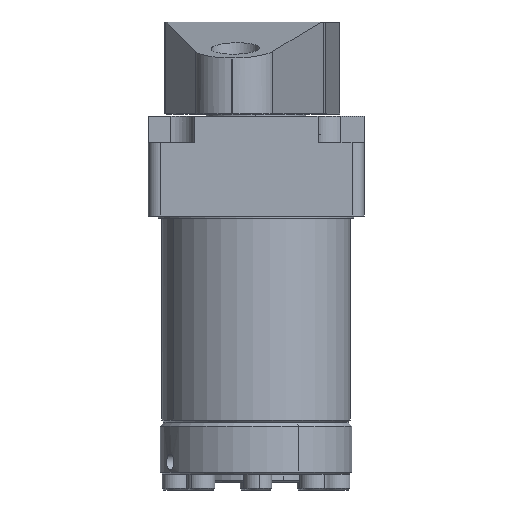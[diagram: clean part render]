
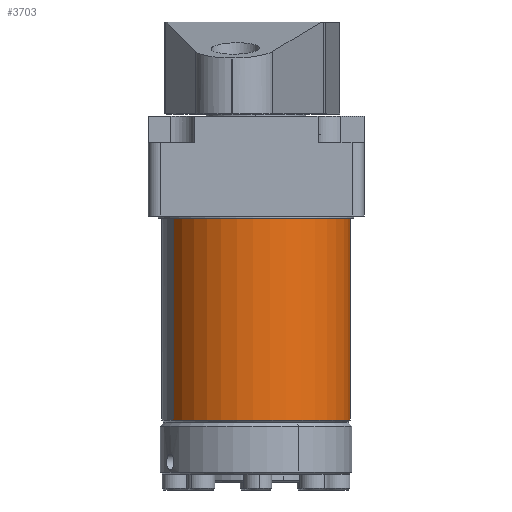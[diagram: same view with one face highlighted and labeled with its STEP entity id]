
A CAD part, front view. The second image highlights one B-rep face of the part: STEP entity #3703.
In plain terms, the highlighted cylindrical face has radius 23.548 mm (diameter 47.096 mm), a partial arc.
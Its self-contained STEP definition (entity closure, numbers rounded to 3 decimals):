
#287 = DIRECTION ( 'NONE',  ( 0., 0., -1. ) ) ;
#830 = AXIS2_PLACEMENT_3D ( 'NONE', #14681, #17986, #14585 ) ;
#1475 = AXIS2_PLACEMENT_3D ( 'NONE', #16726, #287, #5406 ) ;
#1574 = ORIENTED_EDGE ( 'NONE', *, *, #19458, .F. ) ;
#1648 = VERTEX_POINT ( 'NONE', #6598 ) ;
#1679 = CARTESIAN_POINT ( 'NONE',  ( 23.548, 0., 51. ) ) ;
#2172 = LINE ( 'NONE', #16671, #13375 ) ;
#2281 = DIRECTION ( 'NONE',  ( 0., 0., -1. ) ) ;
#3703 = ADVANCED_FACE ( 'NONE', ( #9993 ), #13086, .T. ) ;
#4470 = VERTEX_POINT ( 'NONE', #15883 ) ;
#5406 = DIRECTION ( 'NONE',  ( -1., 0., 0. ) ) ;
#6598 = CARTESIAN_POINT ( 'NONE',  ( 23.548, 0., 0.5 ) ) ;
#6841 = CARTESIAN_POINT ( 'NONE',  ( 0., 0., 0.5 ) ) ;
#7333 = AXIS2_PLACEMENT_3D ( 'NONE', #6841, #16646, #8855 ) ;
#7941 = CIRCLE ( 'NONE', #1475, 23.548 ) ;
#8014 = ORIENTED_EDGE ( 'NONE', *, *, #14549, .T. ) ;
#8855 = DIRECTION ( 'NONE',  ( 1., 0., 0. ) ) ;
#9719 = VERTEX_POINT ( 'NONE', #18005 ) ;
#9993 = FACE_OUTER_BOUND ( 'NONE', #13383, .T. ) ;
#11778 = ORIENTED_EDGE ( 'NONE', *, *, #11827, .T. ) ;
#11827 = EDGE_CURVE ( 'NONE', #9719, #1648, #19955, .T. ) ;
#13086 = CYLINDRICAL_SURFACE ( 'NONE', #830, 23.548 ) ;
#13375 = VECTOR ( 'NONE', #2281, 1000. ) ;
#13383 = EDGE_LOOP ( 'NONE', ( #1574, #17586, #8014, #11778 ) ) ;
#13921 = VECTOR ( 'NONE', #19077, 1000. ) ;
#14549 = EDGE_CURVE ( 'NONE', #17109, #9719, #2172, .T. ) ;
#14585 = DIRECTION ( 'NONE',  ( -1., 0., 0. ) ) ;
#14681 = CARTESIAN_POINT ( 'NONE',  ( 0., 0., 51. ) ) ;
#15339 = EDGE_CURVE ( 'NONE', #4470, #17109, #7941, .T. ) ;
#15883 = CARTESIAN_POINT ( 'NONE',  ( 23.548, 0., 51. ) ) ;
#16299 = LINE ( 'NONE', #1679, #13921 ) ;
#16646 = DIRECTION ( 'NONE',  ( 0., 0., 1. ) ) ;
#16671 = CARTESIAN_POINT ( 'NONE',  ( -23.548, 0., 51. ) ) ;
#16726 = CARTESIAN_POINT ( 'NONE',  ( 0., 0., 51. ) ) ;
#17109 = VERTEX_POINT ( 'NONE', #20224 ) ;
#17586 = ORIENTED_EDGE ( 'NONE', *, *, #15339, .T. ) ;
#17986 = DIRECTION ( 'NONE',  ( 0., 0., -1. ) ) ;
#18005 = CARTESIAN_POINT ( 'NONE',  ( -23.548, 0., 0.5 ) ) ;
#19077 = DIRECTION ( 'NONE',  ( 0., 0., -1. ) ) ;
#19458 = EDGE_CURVE ( 'NONE', #4470, #1648, #16299, .T. ) ;
#19955 = CIRCLE ( 'NONE', #7333, 23.548 ) ;
#20224 = CARTESIAN_POINT ( 'NONE',  ( -23.548, 0., 51. ) ) ;
